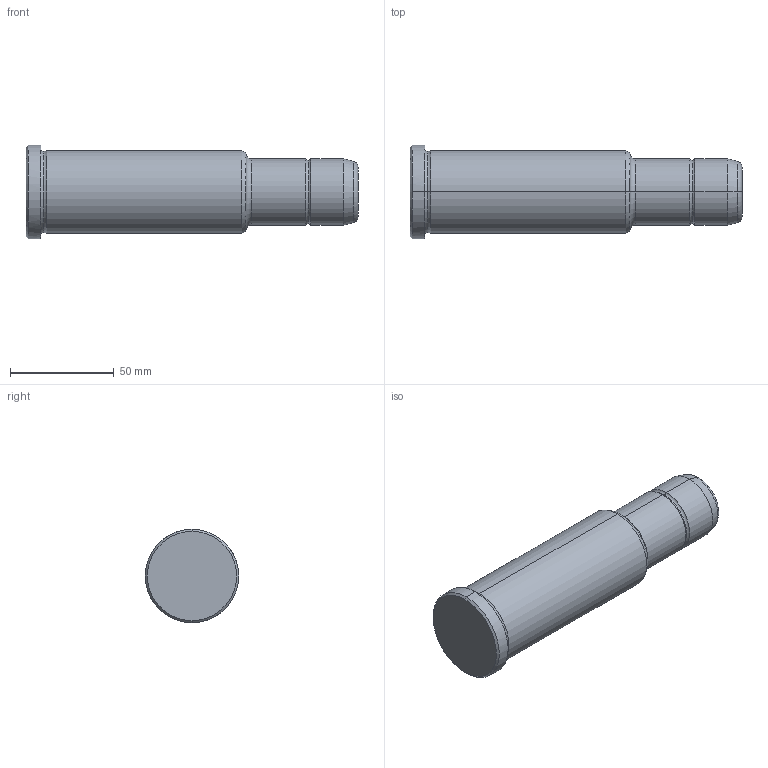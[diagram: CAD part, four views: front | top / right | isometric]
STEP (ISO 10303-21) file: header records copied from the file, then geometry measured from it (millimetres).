
FILE_DESCRIPTION(('CATIA V5 STEP Exchange'),'2;1');
FILE_NAME('C:\Users\Utente\Desktop\IO LAVORO\3D X SITO CF\X SITO\PLASTICA\351\351-32X106X160.stp','2021-09-15T11:49:15+00:00',('none'),('none'),'CATIA Version 5 Release 20 GA (IN-10)','CATIA V5 STEP AP203','none');
FILE_SCHEMA(('CONFIG_CONTROL_DESIGN'));
Length unit declared in the file: millimetre
Products named in the file (1): 351-32X106X160
Bounding box: 160 x 45 x 45 mm (x, y, z)
Volume: 177906.1 mm3; surface area: 21556.7 mm2
Topology: 1 solids, 1 shells, 30 faces, 86 edges, 60 vertices
Faces by surface type: torus 12, cylinder 8, cone 6, plane 4
Entity records: 1112 total; most frequent: CARTESIAN_POINT 289, ORIENTED_EDGE 172, DIRECTION 138, AXIS2_PLACEMENT_3D 95, EDGE_CURVE 86, CIRCLE 64, VERTEX_POINT 60, EDGE_LOOP 32
